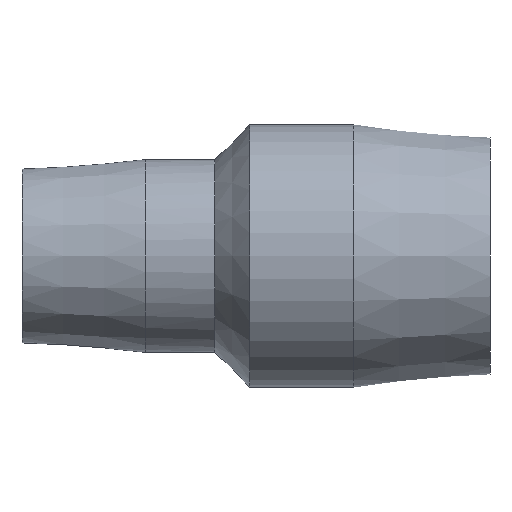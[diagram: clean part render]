
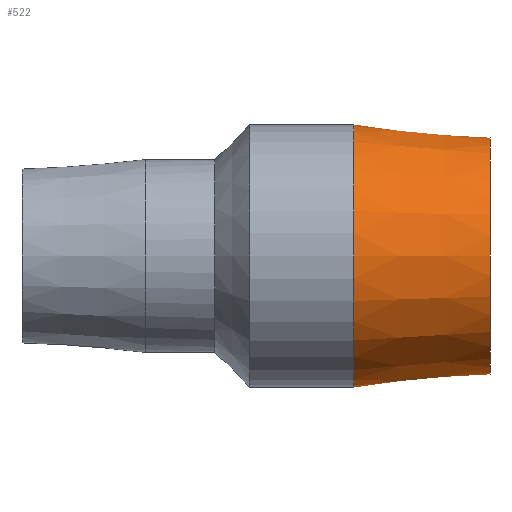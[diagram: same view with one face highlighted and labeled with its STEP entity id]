
A CAD part, front view. The second image highlights one B-rep face of the part: STEP entity #522.
In plain terms, the highlighted conical face has half-angle 5.507 degrees and reference radius 21.355 mm.
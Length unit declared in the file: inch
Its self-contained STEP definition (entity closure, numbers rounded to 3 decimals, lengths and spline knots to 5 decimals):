
#15=B_SPLINE_CURVE_WITH_KNOTS('',3,(#851,#852,#853,#854,#855,#856,#857,
#858,#859,#860,#861,#862,#863,#864,#865,#866,#867,#868,#869,#870,#871,#872,
#873,#874,#875,#876),.UNSPECIFIED.,.F.,.F.,(4,2,2,2,2,2,2,2,2,2,2,2,4),
(0.,0.34194,0.68387,1.02909,1.37431,
1.71953,2.06475,2.40669,2.74862,3.12388,
3.49913,3.86343,4.22773),.UNSPECIFIED.);
#16=B_SPLINE_CURVE_WITH_KNOTS('',3,(#877,#878,#879,#880,#881,#882,#883,
#884,#885,#886),.UNSPECIFIED.,.F.,.F.,(4,2,2,2,4),(4.22773,4.59204,
4.95634,5.33159,5.70684),.UNSPECIFIED.);
#25=CONICAL_SURFACE('',#594,0.84075,0.096);
#34=FACE_BOUND('',#143,.T.);
#50=LINE('',#988,#69);
#69=VECTOR('',#729,0.84075);
#106=FACE_OUTER_BOUND('',#142,.T.);
#142=EDGE_LOOP('',(#405,#406,#407,#408,#409,#410));
#143=EDGE_LOOP('',(#411,#412));
#183=CIRCLE('',#592,0.885);
#184=CIRCLE('',#593,0.885);
#185=CIRCLE('',#595,0.7965);
#186=CIRCLE('',#596,0.7965);
#222=VERTEX_POINT('',#849);
#223=VERTEX_POINT('',#850);
#237=VERTEX_POINT('',#978);
#238=VERTEX_POINT('',#979);
#239=VERTEX_POINT('',#984);
#240=VERTEX_POINT('',#985);
#278=EDGE_CURVE('',#222,#223,#15,.T.);
#279=EDGE_CURVE('',#223,#222,#16,.T.);
#301=EDGE_CURVE('',#237,#238,#183,.T.);
#302=EDGE_CURVE('',#238,#237,#184,.T.);
#304=EDGE_CURVE('',#239,#240,#185,.T.);
#305=EDGE_CURVE('',#240,#239,#186,.T.);
#306=EDGE_CURVE('',#240,#238,#50,.T.);
#405=ORIENTED_EDGE('',*,*,#304,.F.);
#406=ORIENTED_EDGE('',*,*,#305,.F.);
#407=ORIENTED_EDGE('',*,*,#306,.T.);
#408=ORIENTED_EDGE('',*,*,#302,.T.);
#409=ORIENTED_EDGE('',*,*,#301,.T.);
#410=ORIENTED_EDGE('',*,*,#306,.F.);
#411=ORIENTED_EDGE('',*,*,#278,.T.);
#412=ORIENTED_EDGE('',*,*,#279,.T.);
#522=ADVANCED_FACE('',(#106,#34),#25,.T.);
#592=AXIS2_PLACEMENT_3D('',#980,#718,#719);
#593=AXIS2_PLACEMENT_3D('',#981,#720,#721);
#594=AXIS2_PLACEMENT_3D('',#983,#723,#724);
#595=AXIS2_PLACEMENT_3D('',#986,#725,#726);
#596=AXIS2_PLACEMENT_3D('',#987,#727,#728);
#718=DIRECTION('center_axis',(1.,0.,0.));
#719=DIRECTION('ref_axis',(0.,0.,-1.));
#720=DIRECTION('center_axis',(1.,0.,0.));
#721=DIRECTION('ref_axis',(0.,0.,-1.));
#723=DIRECTION('center_axis',(-1.,0.,0.));
#724=DIRECTION('ref_axis',(0.,1.,0.));
#725=DIRECTION('center_axis',(1.,0.,0.));
#726=DIRECTION('ref_axis',(0.,0.,-1.));
#727=DIRECTION('center_axis',(1.,0.,0.));
#728=DIRECTION('ref_axis',(0.,0.,-1.));
#729=DIRECTION('',(-0.995,-0.096,0.));
#849=CARTESIAN_POINT('',(1.12098,0.75459,-0.36965));
#850=CARTESIAN_POINT('',(0.74307,0.8767,0.));
#851=CARTESIAN_POINT('Ctrl Pts',(1.12098,0.75459,-0.36965));
#852=CARTESIAN_POINT('Ctrl Pts',(1.16565,0.75073,-0.36776));
#853=CARTESIAN_POINT('Ctrl Pts',(1.21284,0.75126,-0.35674));
#854=CARTESIAN_POINT('Ctrl Pts',(1.29862,0.75997,-0.31688));
#855=CARTESIAN_POINT('Ctrl Pts',(1.33723,0.76783,-0.28807));
#856=CARTESIAN_POINT('Ctrl Pts',(1.398,0.78306,-0.2232));
#857=CARTESIAN_POINT('Ctrl Pts',(1.42436,0.7915,-0.18247));
#858=CARTESIAN_POINT('Ctrl Pts',(1.45939,0.80346,-0.09353));
#859=CARTESIAN_POINT('Ctrl Pts',(1.46805,0.80681,-0.0453));
#860=CARTESIAN_POINT('Ctrl Pts',(1.46805,0.80681,0.0453));
#861=CARTESIAN_POINT('Ctrl Pts',(1.45939,0.80346,0.09353));
#862=CARTESIAN_POINT('Ctrl Pts',(1.42436,0.7915,0.18247));
#863=CARTESIAN_POINT('Ctrl Pts',(1.398,0.78306,0.2232));
#864=CARTESIAN_POINT('Ctrl Pts',(1.33723,0.76783,0.28807));
#865=CARTESIAN_POINT('Ctrl Pts',(1.29862,0.75997,0.31688));
#866=CARTESIAN_POINT('Ctrl Pts',(1.21284,0.75126,0.35674));
#867=CARTESIAN_POINT('Ctrl Pts',(1.16565,0.75073,0.36776));
#868=CARTESIAN_POINT('Ctrl Pts',(1.07196,0.75884,0.37173));
#869=CARTESIAN_POINT('Ctrl Pts',(1.02063,0.76877,0.36317));
#870=CARTESIAN_POINT('Ctrl Pts',(0.9272,0.79506,0.32584));
#871=CARTESIAN_POINT('Ctrl Pts',(0.885,0.81107,0.2971));
#872=CARTESIAN_POINT('Ctrl Pts',(0.81929,0.83876,0.23126));
#873=CARTESIAN_POINT('Ctrl Pts',(0.79087,0.85245,0.18993));
#874=CARTESIAN_POINT('Ctrl Pts',(0.75274,0.8715,0.09823));
#875=CARTESIAN_POINT('Ctrl Pts',(0.74307,0.8767,0.04781));
#876=CARTESIAN_POINT('Ctrl Pts',(0.74307,0.8767,0.));
#877=CARTESIAN_POINT('Ctrl Pts',(0.74307,0.8767,0.));
#878=CARTESIAN_POINT('Ctrl Pts',(0.74307,0.8767,-0.04781));
#879=CARTESIAN_POINT('Ctrl Pts',(0.75274,0.8715,-0.09823));
#880=CARTESIAN_POINT('Ctrl Pts',(0.79087,0.85245,-0.18993));
#881=CARTESIAN_POINT('Ctrl Pts',(0.81929,0.83876,-0.23126));
#882=CARTESIAN_POINT('Ctrl Pts',(0.885,0.81107,-0.2971));
#883=CARTESIAN_POINT('Ctrl Pts',(0.9272,0.79506,-0.32584));
#884=CARTESIAN_POINT('Ctrl Pts',(1.02063,0.76877,-0.36317));
#885=CARTESIAN_POINT('Ctrl Pts',(1.07196,0.75884,-0.37173));
#886=CARTESIAN_POINT('Ctrl Pts',(1.12098,0.75459,-0.36965));
#978=CARTESIAN_POINT('',(0.657,0.885,0.));
#979=CARTESIAN_POINT('',(0.657,-0.885,0.));
#980=CARTESIAN_POINT('Origin',(0.657,0.,0.));
#981=CARTESIAN_POINT('Origin',(0.657,0.,0.));
#983=CARTESIAN_POINT('Origin',(1.116,0.,0.));
#984=CARTESIAN_POINT('',(1.575,0.7965,0.));
#985=CARTESIAN_POINT('',(1.575,-0.7965,0.));
#986=CARTESIAN_POINT('Origin',(1.575,0.,0.));
#987=CARTESIAN_POINT('Origin',(1.575,0.,0.));
#988=CARTESIAN_POINT('',(1.116,-0.84075,0.));
